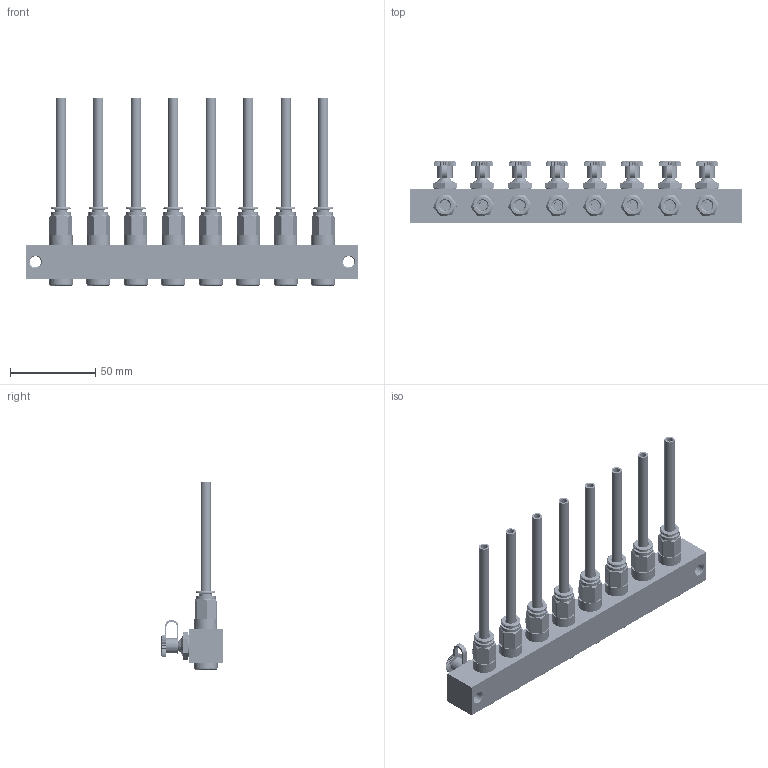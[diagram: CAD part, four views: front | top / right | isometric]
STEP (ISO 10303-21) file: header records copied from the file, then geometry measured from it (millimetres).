
FILE_DESCRIPTION (( 'STEP AP214' ), '1' );
FILE_NAME ('1460_0108_HD.STEP', '2026-01-26T13:32:39', ( '' ), ( '' ), 'SwSTEP 2.0', 'SolidWorks 2022', '' );
FILE_SCHEMA (( 'AUTOMOTIVE_DESIGN' ));
Length unit declared in the file: millimetre
Products named in the file (14): Staubkappe; DR6-C_HDX_25.07.16_1; 1460_01_08_ASL-08; RIVOLUZIONE_0_2; Schmiernippel_Staubkappe; 1460_steckverscgraubung_Rohr 6x1; POLY_6_4_Bogen_2; Lasche_Staubkappe; 1460_0108_HD; 749-M10X1-A; OR 7.66X1.78_1; schmiernippel_M10_1; Staubkappe_Fettnippel; H200139_HDS01_6_M10X1_08.05.17
Assembly tree (34 placements, depth 4):
  1460_0108_HD
    1460_01_08_ASL-08
    Schmiernippel_Staubkappe  x8
      schmiernippel_M10_1
      Staubkappe_Fettnippel
        Lasche_Staubkappe
        Staubkappe
    749-M10X1-A  x8
    1460_steckverscgraubung_Rohr 6x1  x8
      POLY_6_4_Bogen_2
      H200139_HDS01_6_M10X1_08.05.17
        OR 7.66X1.78_1
        DR6-C_HDX_25.07.16_1
        RIVOLUZIONE_0_2
Bounding box: 195 x 36 x 110.1 mm (x, y, z)
Volume: 102689 mm3; surface area: 90123.9 mm2
Topology: 57 solids, 73 shells, 2292 faces, 6108 edges, 4042 vertices
Faces by surface type: plane 1382, bspline 392, cylinder 330, cone 188
Full cylindrical faces by diameter (mm): 1.5 x8, 4 x8, 4.2 x8, 5 x8, 6 x16, 6.2 x8, 6.3 x8, 6.495 x8, 6.5 x2, 7.2 x8, 8.4 x8, 8.5 x8, 9 x8, 9.9 x8, 10 x32, 10.3 x8, 11.5 x8, 11.7 x8, 11.9 x8, 13.7 x8, 14 x8
Entity records: 100828 total; most frequent: CARTESIAN_POINT 86653, ORIENTED_EDGE 3513, EDGE_CURVE 1758, DIRECTION 1521, VERTEX_POINT 1204, B_SPLINE_CURVE_WITH_KNOTS 777, EDGE_LOOP 754, FACE_OUTER_BOUND 668
